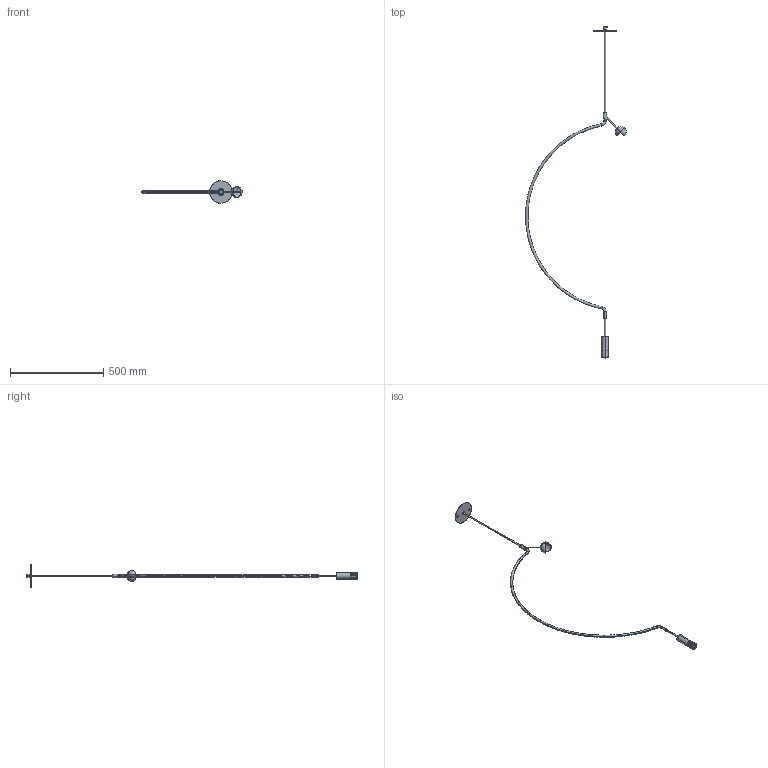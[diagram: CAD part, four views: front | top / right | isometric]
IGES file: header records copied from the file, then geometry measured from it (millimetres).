
Start section: SolidWorks IGES file using analytic representation for surfaces
Global section: file name: \\STORAGE\Tecnico Condiviso\1 FASCICOLI TECNICI\AXO DESIGN\AXO058-LIAISON\AXO01 Liaison - Fascicolo Tecnico 2018-11-20\AXO01.LS03 SO100 1 Luce\1.0A.AXO01.LS03.A1-3D\PENDENTE LIAISON INCASSO G-PER 3D.IGS; native system: SolidWorks 2024; preprocessor: SolidWorks 2024; author: tecnico3; date: 240529.121848; units: millimetre
Bounding box: 540.8 x 1781.03 x 120 mm (x, y, z)
Surface area: 225463 mm2 (no closed solid volume)
Topology: 0 solids, 0 shells, 482 faces, 8253 edges, 8186 vertices
Faces by surface type: bspline 251, revolution 231
